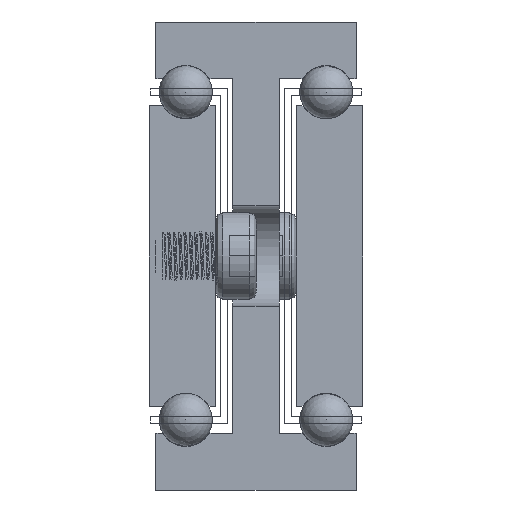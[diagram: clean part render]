
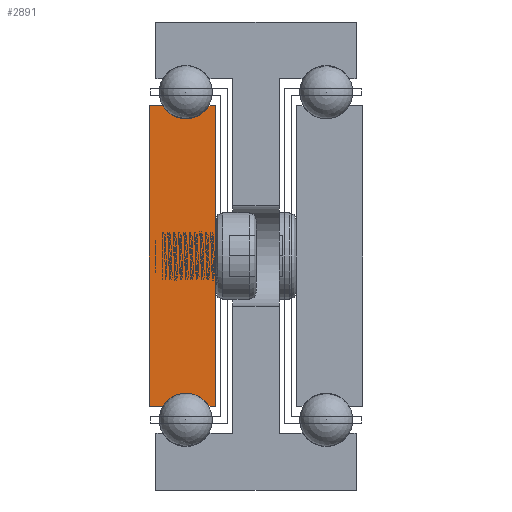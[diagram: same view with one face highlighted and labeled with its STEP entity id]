
A CAD part, front view. The second image highlights one B-rep face of the part: STEP entity #2891.
In plain terms, the highlighted planar face has unit normal (0, -1, 0).
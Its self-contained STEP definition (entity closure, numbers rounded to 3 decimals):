
#172=LINE('',#4286,#384);
#175=LINE('',#4292,#387);
#179=LINE('',#4304,#391);
#182=LINE('',#4310,#394);
#185=LINE('',#4316,#397);
#189=LINE('',#4326,#401);
#384=VECTOR('',#3442,1.);
#387=VECTOR('',#3447,1.);
#391=VECTOR('',#3459,1.);
#394=VECTOR('',#3464,1.);
#397=VECTOR('',#3469,1.);
#401=VECTOR('',#3481,1.);
#601=PLANE('',#3107);
#817=FACE_OUTER_BOUND('',#999,.T.);
#999=EDGE_LOOP('',(#2216,#2217,#2218,#2219,#2220,#2221,#2222,#2223));
#1257=CIRCLE('',#3098,4.);
#1259=CIRCLE('',#3104,4.);
#1422=VERTEX_POINT('',#4283);
#1423=VERTEX_POINT('',#4285);
#1425=VERTEX_POINT('',#4291);
#1427=VERTEX_POINT('',#4297);
#1429=VERTEX_POINT('',#4303);
#1431=VERTEX_POINT('',#4309);
#1433=VERTEX_POINT('',#4315);
#1435=VERTEX_POINT('',#4321);
#1764=EDGE_CURVE('',#1423,#1422,#172,.T.);
#1767=EDGE_CURVE('',#1425,#1423,#175,.T.);
#1770=EDGE_CURVE('',#1427,#1425,#1257,.T.);
#1773=EDGE_CURVE('',#1429,#1427,#179,.T.);
#1776=EDGE_CURVE('',#1431,#1429,#182,.T.);
#1779=EDGE_CURVE('',#1433,#1431,#185,.T.);
#1782=EDGE_CURVE('',#1435,#1433,#1259,.T.);
#1785=EDGE_CURVE('',#1422,#1435,#189,.T.);
#2216=ORIENTED_EDGE('',*,*,#1785,.T.);
#2217=ORIENTED_EDGE('',*,*,#1782,.T.);
#2218=ORIENTED_EDGE('',*,*,#1779,.T.);
#2219=ORIENTED_EDGE('',*,*,#1776,.T.);
#2220=ORIENTED_EDGE('',*,*,#1773,.T.);
#2221=ORIENTED_EDGE('',*,*,#1770,.T.);
#2222=ORIENTED_EDGE('',*,*,#1767,.T.);
#2223=ORIENTED_EDGE('',*,*,#1764,.T.);
#2891=ADVANCED_FACE('',(#817),#601,.T.);
#3098=AXIS2_PLACEMENT_3D('',#4298,#3453,#3454);
#3104=AXIS2_PLACEMENT_3D('',#4322,#3475,#3476);
#3107=AXIS2_PLACEMENT_3D('',#4328,#3484,#3485);
#3442=DIRECTION('',(0.,0.,-1.));
#3447=DIRECTION('',(-1.,0.,0.));
#3453=DIRECTION('center_axis',(0.,1.,0.));
#3454=DIRECTION('ref_axis',(-0.866,0.,-0.5));
#3459=DIRECTION('',(-1.,0.,0.));
#3464=DIRECTION('',(0.,0.,1.));
#3469=DIRECTION('',(1.,0.,0.));
#3475=DIRECTION('center_axis',(0.,1.,0.));
#3476=DIRECTION('ref_axis',(0.866,0.,0.5));
#3481=DIRECTION('',(1.,0.,0.));
#3484=DIRECTION('center_axis',(0.,-1.,0.));
#3485=DIRECTION('ref_axis',(1.,0.,0.));
#4283=CARTESIAN_POINT('',(5224.703,-204.293,2.));
#4285=CARTESIAN_POINT('',(5224.703,-204.293,47.));
#4286=CARTESIAN_POINT('',(5224.703,-204.293,2.));
#4291=CARTESIAN_POINT('',(5226.739,-204.293,47.));
#4292=CARTESIAN_POINT('',(5224.703,-204.293,47.));
#4297=CARTESIAN_POINT('',(5233.667,-204.293,47.));
#4298=CARTESIAN_POINT('Origin',(5230.203,-204.293,49.));
#4303=CARTESIAN_POINT('',(5234.703,-204.293,47.));
#4304=CARTESIAN_POINT('',(5233.667,-204.293,47.));
#4309=CARTESIAN_POINT('',(5234.703,-204.293,2.));
#4310=CARTESIAN_POINT('',(5234.703,-204.293,47.));
#4315=CARTESIAN_POINT('',(5233.667,-204.293,2.));
#4316=CARTESIAN_POINT('',(5234.703,-204.293,2.));
#4321=CARTESIAN_POINT('',(5226.739,-204.293,2.));
#4322=CARTESIAN_POINT('Origin',(5230.203,-204.293,0.));
#4326=CARTESIAN_POINT('',(5226.739,-204.293,2.));
#4328=CARTESIAN_POINT('Origin',(5229.697,-204.293,24.5));
